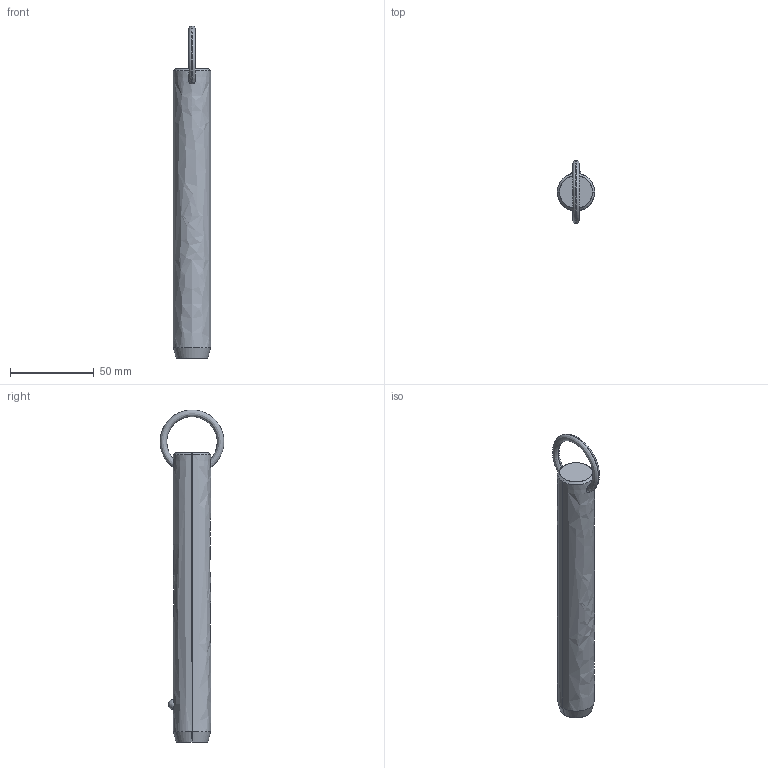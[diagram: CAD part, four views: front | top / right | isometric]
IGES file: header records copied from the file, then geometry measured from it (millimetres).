
Start section: SolidWorks IGES file using analytic representation for surfaces
Global section: file name: C:\Users\liam_\OneDrive\Documents\WORK\Work for WixRoyd\Job Files\J-00019 - Matt Davis CAD Checking\04. CAD Drawings\automotion20190605\P1250.2_v2\P1250.2_v2_20190729_IGES\P1250.087-530.igs; native system: SolidWorks 2017; preprocessor: SolidWorks 2017; author: liam_; date: 190730.001420; units: millimetre
Bounding box: 22.2 x 38.08 x 198.08 mm (x, y, z)
Surface area: 13688.4 mm2 (no closed solid volume)
Topology: 0 solids, 0 shells, 12 faces, 302 edges, 300 vertices
Faces by surface type: revolution 8, bspline 4
